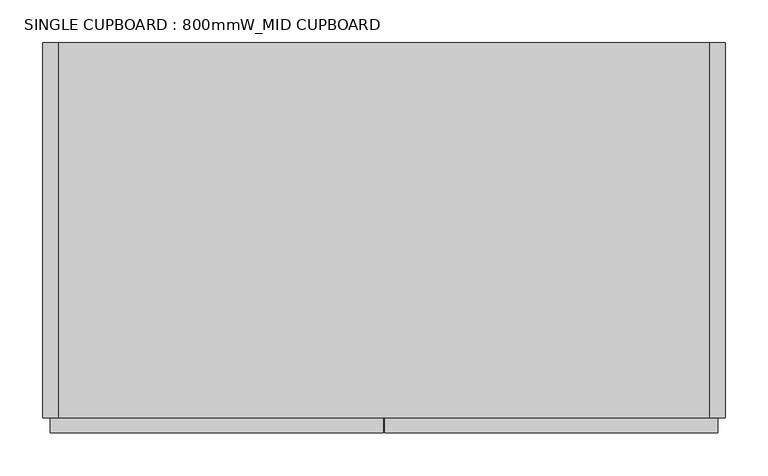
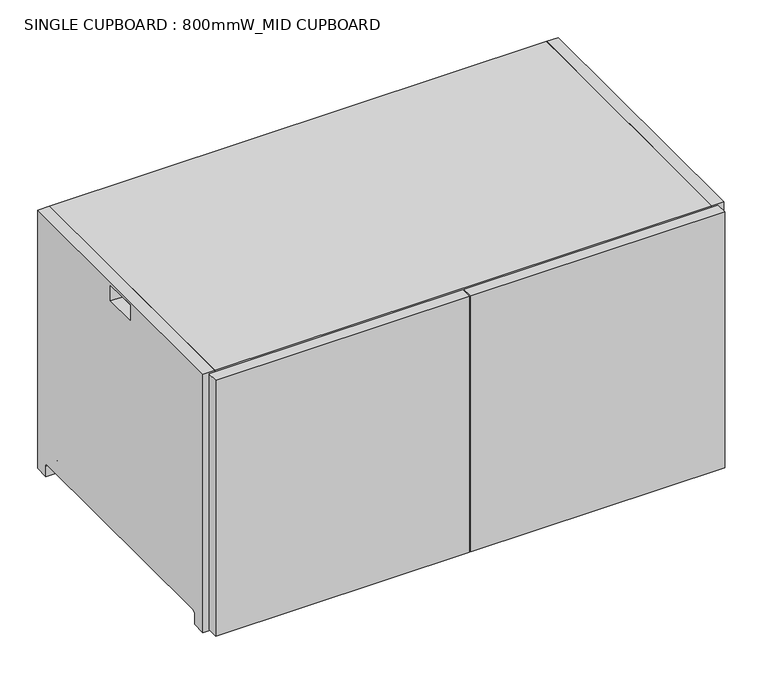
"""IFC4 building model written with IfcOpenShell, lengths in millimetres: furniture geometry, SINGLE CUPBOARD : 800mmW_MID CUPBOARD."""

from ifc_helpers import new_model, si_unit, point, frame, frame_2d, origin, place, context, project, spatial, polyline, circle_curve, trimmed, segment, composite_curve, outline, extrude, source, transform, mapped, element, save
from ifc_brep_helpers import plane_surface, revolved_surface, advanced_brep


def single_cupboard_800mmw_mid_cupboard_3c86a638(model_context):
    return source(origin(), model_context, "Body", "SolidModel", [
        extrude(outline(composite_curve([segment(polyline([(-220.0, 419.5), (220.0, 419.5), (220.0, 0.0), (198.0, 0.0), (198.0, 17.0)]), True, "CONTINUOUS"), segment(trimmed(circle_curve(frame_2d((194.0, 17.0)), 4.0), [point((198.0, 17.0))], [point((194.0, 21.0))], True, "CARTESIAN"), True, "CONTINUOUS"), segment(polyline([(194.0, 21.0), (-194.0, 21.0)]), True, "CONTINUOUS"), segment(trimmed(circle_curve(frame_2d((-194.0, 17.0)), 4.0), [point((-194.0, 21.0))], [point((-198.0, 17.0))], True, "CARTESIAN"), True, "CONTINUOUS"), segment(polyline([(-198.0, 17.0), (-198.0, 0.0), (-220.0, 0.0), (-220.0, 419.5)]), True, "CONTINUOUS")], self_intersect=False), holes=[polyline([(-26.0, 414.5), (-26.0, 389.5), (26.0, 389.5), (26.0, 414.5), (-26.0, 414.5)])]), frame((-400.0, 0.0, 0.0), z_axis=(1.0, 0.0, 0.0), x_axis=(0.0, 1.0, 0.0)), (0.0, 0.0, 1.0), 18.0),
        advanced_brep(
        [(382.0, 220.0, 18.0), (-382.0, 220.0, 18.0), (-382.0, 197.8729833, 18.0), (-376.1019215, 197.8729833, 18.0), (-376.1019215, -197.8729833, 18.0), (-382.0, -197.8729833, 18.0), (-382.0, -220.0, 18.0), (382.0, -220.0, 18.0), (382.0, 220.0, 0.0), (382.0, -220.0, 0.0), (-382.0, -220.0, 0.0), (-382.0, -198.0, 0.0), (-376.1019215, -198.0, 0.0), (-376.1019215, 198.0, 0.0), (-382.0, 198.0, 0.0), (-382.0, 220.0, 0.0), (-382.0, 198.0, 17.0), (-382.0, -198.0, 17.0), (-376.1019215, 198.0, 17.0), (-376.1019215, -198.0, 17.0)],
        [
            (0, 1),
            (1, 2),
            (2, 3),
            (3, 4),
            (4, 5),
            (5, 6),
            (6, 7),
            (7, 0),
            (8, 9),
            (9, 10),
            (10, 11),
            (11, 12),
            (12, 13),
            (13, 14),
            (14, 15),
            (15, 8),
            (0, 8),
            (15, 1),
            (14, 16),
            (16, 2, circle_curve(frame((-382.0, 194.0, 17.0), z_axis=(1.0, 0.0, 0.0), x_axis=(0.0, 1.0, 0.0)), 4.0)),
            (10, 6),
            (5, 17, circle_curve(frame((-382.0, -194.0, 17.0), z_axis=(1.0, 0.0, 0.0), x_axis=(0.0, 1.0, 0.0)), 4.0)),
            (17, 11),
            (9, 7),
            (18, 13),
            (12, 19),
            (19, 4, circle_curve(frame((-376.1019215, -194.0, 17.0), z_axis=(-1.0, 0.0, 0.0), x_axis=(0.0, 1.0, 0.0)), 4.0)),
            (3, 18, circle_curve(frame((-376.1019215, 194.0, 17.0), z_axis=(-1.0, 0.0, 0.0), x_axis=(0.0, 1.0, 0.0)), 4.0)),
            (19, 17),
            (18, 16),
        ],
        [
            plane_surface(frame((-382.0, 220.0, 18.0), z_axis=(0.0, 0.0, 1.0), x_axis=(-1.0, 0.0, 0.0))),
            plane_surface(frame((-382.0, 220.0, 0.0), z_axis=(0.0, 0.0, -1.0), x_axis=(1.0, 0.0, 0.0))),
            plane_surface(frame((382.0, 220.0, 18.0), z_axis=(0.0, 1.0, 0.0), x_axis=(0.0, 0.0, -1.0))),
            plane_surface(frame((-382.0, 220.0, 18.0), z_axis=(-1.0, 0.0, 0.0), x_axis=(0.0, 0.0, -1.0))),
            plane_surface(frame((-382.0, -220.0, 18.0), z_axis=(0.0, -1.0, 0.0), x_axis=(0.0, 0.0, -1.0))),
            plane_surface(frame((382.0, -220.0, 18.0), z_axis=(1.0, 0.0, 0.0), x_axis=(0.0, 0.0, -1.0))),
            plane_surface(frame((-376.1019215, -190.0, 17.0), z_axis=(-1.0, 0.0, 0.0), x_axis=(0.0, 0.0, 1.0))),
            revolved_surface(polyline([(-376.1019215, -190.0, 17.0), (-382.0, -190.0, 17.0)]), (-406.0458228, -194.0, 17.0), (1.0, 0.0, 0.0)),
            plane_surface(frame((-376.1019215, -198.0, 17.0), z_axis=(0.0, 1.0, 0.0), x_axis=(-1.0, 0.0, 0.0))),
            plane_surface(frame((-376.1019215, 198.0, 0.0), z_axis=(0.0, -1.0, 0.0), x_axis=(-1.0, 0.0, 0.0))),
            revolved_surface(polyline([(-376.1019215, 198.0, 17.0), (-382.0, 198.0, 17.0)]), (-406.0458228, 194.0, 17.0), (1.0, 0.0, 0.0)),
        ],
        [
            (0, [[1, 2, 3, 4, 5, 6, 7, 8]]),
            (1, [[9, 10, 11, 12, 13, 14, 15, 16]]),
            (2, [[-1, 17, -16, 18]]),
            (3, [[-18, -15, 19, 20, -2]]),
            (3, [[21, -6, 22, 23, -11]]),
            (4, [[-7, -21, -10, 24]]),
            (5, [[-8, -24, -9, -17]]),
            (6, [[25, -13, 26, 27, -4, 28]]),
            (7, [[-27, 29, -22, -5]]),
            (8, [[-26, -12, -23, -29]]),
            (9, [[-25, 30, -19, -14]]),
            (10, [[-28, -3, -20, -30]]),
        ],
    ),
        extrude(outline(composite_curve([segment(polyline([(-220.0, 419.5), (220.0, 419.5), (220.0, 0.0), (198.0, 0.0), (198.0, 17.0)]), True, "CONTINUOUS"), segment(trimmed(circle_curve(frame_2d((194.0, 17.0)), 4.0), [point((198.0, 17.0))], [point((194.0, 21.0))], True, "CARTESIAN"), True, "CONTINUOUS"), segment(polyline([(194.0, 21.0), (-194.0, 21.0)]), True, "CONTINUOUS"), segment(trimmed(circle_curve(frame_2d((-194.0, 17.0)), 4.0), [point((-194.0, 21.0))], [point((-198.0, 17.0))], True, "CARTESIAN"), True, "CONTINUOUS"), segment(polyline([(-198.0, 17.0), (-198.0, 0.0), (-220.0, 0.0), (-220.0, 419.5)]), True, "CONTINUOUS")], self_intersect=False), holes=[polyline([(-26.0, 414.5), (-26.0, 389.5), (26.0, 389.5), (26.0, 414.5), (-26.0, 414.5)])]), frame((382.0, 0.0, 0.0), z_axis=(1.0, 0.0, 0.0), x_axis=(0.0, 1.0, 0.0)), (0.0, 0.0, 1.0), 18.0),
        extrude(outline(polyline([(382.0, 220.0), (382.0, 202.0), (-382.0, 202.0), (-382.0, 220.0), (382.0, 220.0)])), frame((0.0, 0.0, 18.0), z_axis=(0.0, 0.0, 1.0), x_axis=(1.0, 0.0, 0.0)), (0.0, 0.0, 1.0), 383.5),
        extrude(outline(polyline([(382.0, 220.0), (382.0, -220.0), (-382.0, -220.0), (-382.0, 220.0), (382.0, 220.0)])), frame((0.0, 0.0, 401.5), z_axis=(0.0, 0.0, 1.0), x_axis=(1.0, 0.0, 0.0)), (0.0, 0.0, 1.0), 18.0),
        extrude(outline(polyline([(9.0, 202.0), (9.0, -220.0), (-9.0, -220.0), (-9.0, 202.0), (9.0, 202.0)])), frame((0.0, 0.0, 18.0), z_axis=(0.0, 0.0, 1.0), x_axis=(1.0, 0.0, 0.0)), (0.0, 0.0, 1.0), 383.5),
        extrude(outline(polyline([(391.0, -220.0), (391.0, -238.0), (1.0, -238.0), (1.0, -220.0), (391.0, -220.0)])), frame((0.0, 0.0, 2.0), z_axis=(0.0, 0.0, 1.0), x_axis=(1.0, 0.0, 0.0)), (0.0, 0.0, 1.0), 415.5),
        extrude(outline(polyline([(-391.0, -220.0), (-1.0, -220.0), (-1.0, -238.0), (-391.0, -238.0), (-391.0, -220.0)])), frame((0.0, 0.0, 2.0), z_axis=(0.0, 0.0, 1.0), x_axis=(1.0, 0.0, 0.0)), (0.0, 0.0, 1.0), 415.5),
    ])


if __name__ == "__main__":
    model = new_model("IFC4")
    model_context = context("Model", 3, world=origin())
    ifc_project = project(units=[si_unit("LENGTHUNIT", "METRE", prefix="MILLI")], contexts=[model_context])
    site = spatial("IfcSite", under=ifc_project)
    building = spatial("IfcBuilding", under=site)
    placement = place(None, origin())
    single_cupboard_800mmw_mid_cupboard_shape = single_cupboard_800mmw_mid_cupboard_3c86a638(model_context)
    element("IfcFurniture", 1, ObjectType="SINGLE CUPBOARD : 800mmW_MID CUPBOARD", at=placement, inside=building, context=model_context, shape_type="MappedRepresentation", body=[
        mapped(single_cupboard_800mmw_mid_cupboard_shape, transform((0.0, 0.0, 0.0), x_axis=(1.0, 0.0, 0.0), y_axis=(0.0, 1.0, 0.0), z_axis=(0.0, 0.0, 1.0))),
    ])
    save(model, "model.ifc")
